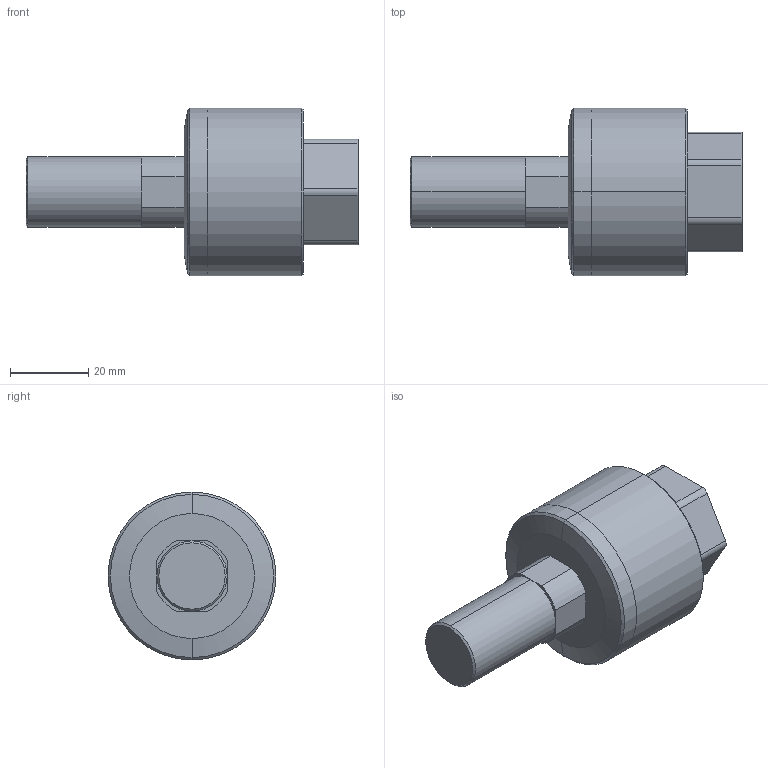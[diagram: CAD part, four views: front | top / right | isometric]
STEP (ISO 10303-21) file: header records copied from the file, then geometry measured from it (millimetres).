
FILE_DESCRIPTION (( 'STEP AP203' ), '1' );
FILE_NAME ('FCM18A-1.5.STEP', '2016-03-23T03:42:11', ( 'Sam Lin' ), ( '' ), 'SwSTEP 2.0', 'SolidWorks 2013', '' );
FILE_SCHEMA (( 'CONFIG_CONTROL_DESIGN' ));
Length unit declared in the file: millimetre
Products named in the file (1): FCM18A-1.5
Bounding box: 85 x 43 x 43 mm (x, y, z)
Volume: 59179.2 mm3; surface area: 11407.5 mm2
Topology: 1 solids, 1 shells, 46 faces, 108 edges, 65 vertices
Faces by surface type: cylinder 18, plane 18, cone 10
Entity records: 1375 total; most frequent: DIRECTION 244, CARTESIAN_POINT 218, ORIENTED_EDGE 212, EDGE_CURVE 106, AXIS2_PLACEMENT_3D 91, VERTEX_POINT 65, VECTOR 62, LINE 62
